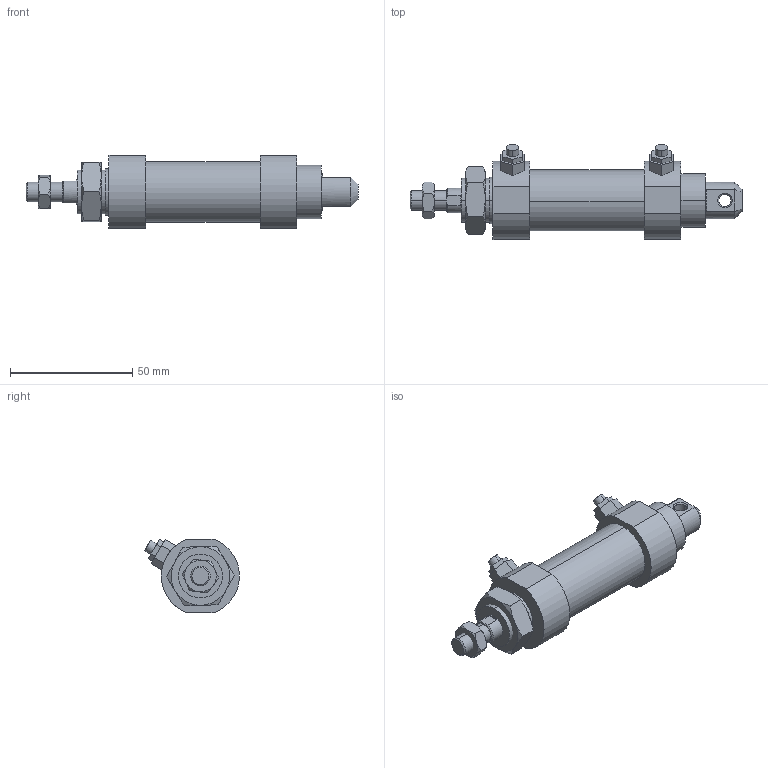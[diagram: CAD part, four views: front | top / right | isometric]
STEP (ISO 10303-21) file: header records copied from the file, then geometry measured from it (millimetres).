
FILE_DESCRIPTION (( 'STEP AP203' ), '1' );
FILE_NAME ('JG2-20-15-C.STEP', '2016-04-19T00:33:12', ( '' ), ( '' ), 'SwSTEP 2.0', 'SolidWorks 2014', '' );
FILE_SCHEMA (( 'CONFIG_CONTROL_DESIGN' ));
Length unit declared in the file: millimetre
Products named in the file (6): M8x1.25-5mm; M18x1.5-8mm; JG2-20B; JG2-20-15-C; 20-15; JG2-20C
Assembly tree (5 placements, depth 2):
  JG2-20-15-C
    JG2-20B
    20-15
    JG2-20C
    M8x1.25-5mm
    M18x1.5-8mm
Bounding box: 136 x 38.9 x 30 mm (x, y, z)
Volume: 59252.8 mm3; surface area: 16864.6 mm2
Topology: 5 solids, 5 shells, 148 faces, 332 edges, 206 vertices
Faces by surface type: plane 74, cylinder 32, torus 24, cone 18
Entity records: 5126 total; most frequent: CARTESIAN_POINT 1254, DIRECTION 686, ORIENTED_EDGE 656, EDGE_CURVE 328, AXIS2_PLACEMENT_3D 270, VERTEX_POINT 206, EDGE_LOOP 170, ADVANCED_FACE 148
